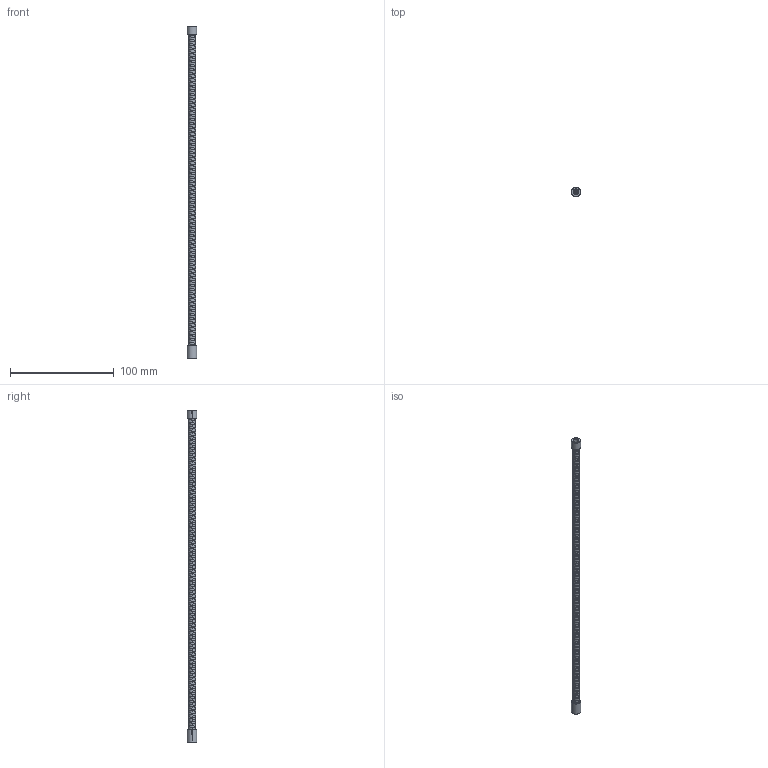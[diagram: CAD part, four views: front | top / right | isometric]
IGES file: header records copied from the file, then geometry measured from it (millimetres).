
Start section: SolidWorks IGES file using analytic representation for surfaces
Bounding box: 9 x 9 x 320 mm (x, y, z)
Surface area: 11899.5 mm2 (no closed solid volume)
Topology: 0 solids, 0 shells, 210 faces, 6512 edges, 6512 vertices
Faces by surface type: revolution 195, bspline 15
